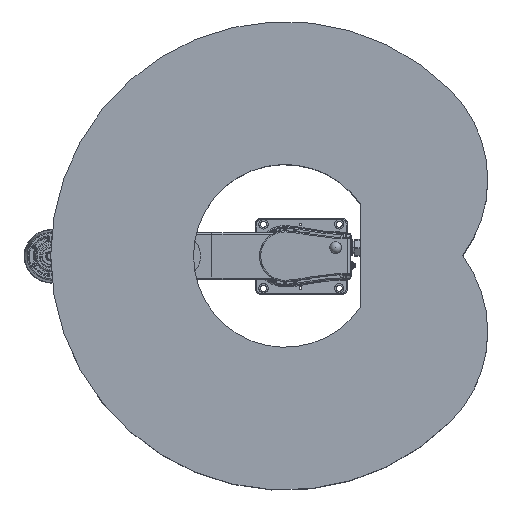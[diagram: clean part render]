
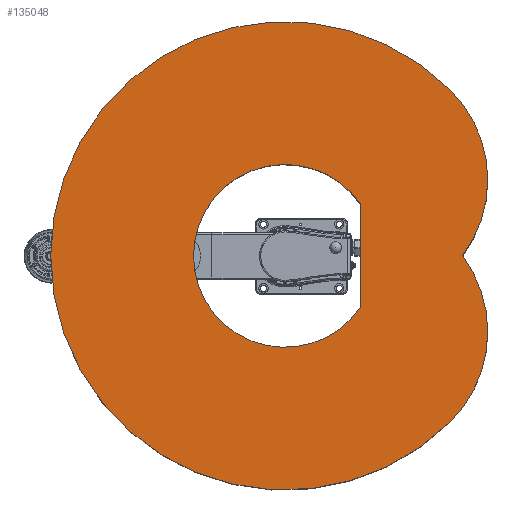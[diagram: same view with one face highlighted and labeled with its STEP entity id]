
A CAD part, top view. The second image highlights one B-rep face of the part: STEP entity #135048.
In plain terms, the highlighted planar face has unit normal (0, 0, 1) as drawn and (0, 1, 0) by its records, which use the part's own axes.
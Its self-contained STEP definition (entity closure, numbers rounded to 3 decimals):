
#40114 = EDGE_CURVE ( 'NONE', #174554, #174601, #62815, .T. ) ;
#40116 = EDGE_CURVE ( 'NONE', #174601, #174580, #80013, .T. ) ;
#40118 = EDGE_CURVE ( 'NONE', #174591, #174593, #62768, .T. ) ;
#40121 = EDGE_CURVE ( 'NONE', #174595, #174578, #62765, .T. ) ;
#40122 = EDGE_CURVE ( 'NONE', #174593, #174595, #63133, .T. ) ;
#40129 = EDGE_CURVE ( 'NONE', #174578, #174591, #62856, .T. ) ;
#40135 = EDGE_CURVE ( 'NONE', #174580, #174554, #62862, .T. ) ;
#43157 = CARTESIAN_POINT ( 'NONE',  ( 97.227, 400., 97.227 ) ) ;
#43165 = DIRECTION ( 'NONE',  ( 0., 1., 0. ) ) ;
#43213 = FACE_OUTER_BOUND ( 'NONE', #97165, .T. ) ;
#43219 = FACE_BOUND ( 'NONE', #97171, .T. ) ;
#43223 = PLANE ( 'NONE',  #162489 ) ;
#43227 = DIRECTION ( 'NONE',  ( 0., 0., 1. ) ) ;
#62765 = CIRCLE ( 'NONE', #63090, 600. ) ;
#62768 = CIRCLE ( 'NONE', #62873, 325. ) ;
#62815 = CIRCLE ( 'NONE', #62925, 234.211 ) ;
#62821 = AXIS2_PLACEMENT_3D ( 'NONE', #80161, #80163, #80167 ) ;
#62856 = CIRCLE ( 'NONE', #62895, 600. ) ;
#62862 = CIRCLE ( 'NONE', #62821, 234.211 ) ;
#62873 = AXIS2_PLACEMENT_3D ( 'NONE', #80037, #80038, #80039 ) ;
#62895 = AXIS2_PLACEMENT_3D ( 'NONE', #80121, #80124, #80127 ) ;
#62925 = AXIS2_PLACEMENT_3D ( 'NONE', #80017, #80019, #80022 ) ;
#63090 = AXIS2_PLACEMENT_3D ( 'NONE', #80049, #80050, #80053 ) ;
#63133 = CIRCLE ( 'NONE', #63169, 325. ) ;
#63169 = AXIS2_PLACEMENT_3D ( 'NONE', #80062, #80064, #80066 ) ;
#63183 = VECTOR ( 'NONE', #80027, 1000. ) ;
#79961 = CARTESIAN_POINT ( 'NONE',  ( 130.546, 400., 194.454 ) ) ;
#80013 = LINE ( 'NONE', #79961, #63183 ) ;
#80017 = CARTESIAN_POINT ( 'NONE',  ( 0., 400., 0. ) ) ;
#80019 = DIRECTION ( 'NONE',  ( 0., 1., 0. ) ) ;
#80022 = DIRECTION ( 'NONE',  ( 0., 0., 1. ) ) ;
#80027 = DIRECTION ( 'NONE',  ( 1., 0., 0. ) ) ;
#80037 = CARTESIAN_POINT ( 'NONE',  ( -194.454, 400., 194.454 ) ) ;
#80038 = DIRECTION ( 'NONE',  ( 0., 1., 0. ) ) ;
#80039 = DIRECTION ( 'NONE',  ( 0., 0., 1. ) ) ;
#80049 = CARTESIAN_POINT ( 'NONE',  ( 0., 400., 0. ) ) ;
#80050 = DIRECTION ( 'NONE',  ( 0., 1., 0. ) ) ;
#80053 = DIRECTION ( 'NONE',  ( 0., 0., 1. ) ) ;
#80062 = CARTESIAN_POINT ( 'NONE',  ( 194.454, 400., 194.454 ) ) ;
#80064 = DIRECTION ( 'NONE',  ( 0., 1., 0. ) ) ;
#80066 = DIRECTION ( 'NONE',  ( 0., 0., 1. ) ) ;
#80121 = CARTESIAN_POINT ( 'NONE',  ( 0., 400., 0. ) ) ;
#80124 = DIRECTION ( 'NONE',  ( 0., 1., 0. ) ) ;
#80127 = DIRECTION ( 'NONE',  ( 0., 0., 1. ) ) ;
#80161 = CARTESIAN_POINT ( 'NONE',  ( 0., 400., 0. ) ) ;
#80163 = DIRECTION ( 'NONE',  ( 0., 1., 0. ) ) ;
#80167 = DIRECTION ( 'NONE',  ( 0., 0., 1. ) ) ;
#97165 = EDGE_LOOP ( 'NONE', ( #137618, #137620, #137621, #137623 ) ) ;
#97171 = EDGE_LOOP ( 'NONE', ( #137626, #137627, #137629 ) ) ;
#135048 = ADVANCED_FACE ( 'NONE', ( #43213, #43219 ), #43223, .T. ) ;
#137618 = ORIENTED_EDGE ( 'NONE', *, *, #40122, .T. ) ;
#137620 = ORIENTED_EDGE ( 'NONE', *, *, #40121, .T. ) ;
#137621 = ORIENTED_EDGE ( 'NONE', *, *, #40129, .T. ) ;
#137623 = ORIENTED_EDGE ( 'NONE', *, *, #40118, .T. ) ;
#137626 = ORIENTED_EDGE ( 'NONE', *, *, #40116, .F. ) ;
#137627 = ORIENTED_EDGE ( 'NONE', *, *, #40114, .F. ) ;
#137629 = ORIENTED_EDGE ( 'NONE', *, *, #40135, .F. ) ;
#140508 = CARTESIAN_POINT ( 'NONE',  ( 0., 400., -234.211 ) ) ;
#140555 = CARTESIAN_POINT ( 'NONE',  ( 0., 400., -600. ) ) ;
#140558 = CARTESIAN_POINT ( 'NONE',  ( 130.546, 400., 194.454 ) ) ;
#140580 = CARTESIAN_POINT ( 'NONE',  ( -424.264, 400., 424.264 ) ) ;
#140584 = CARTESIAN_POINT ( 'NONE',  ( 0., 400., 454.863 ) ) ;
#140586 = CARTESIAN_POINT ( 'NONE',  ( 424.264, 400., 424.264 ) ) ;
#140598 = CARTESIAN_POINT ( 'NONE',  ( -130.546, 400., 194.454 ) ) ;
#162489 = AXIS2_PLACEMENT_3D ( 'NONE', #43157, #43165, #43227 ) ;
#174554 = VERTEX_POINT ( 'NONE', #140508 ) ;
#174578 = VERTEX_POINT ( 'NONE', #140555 ) ;
#174580 = VERTEX_POINT ( 'NONE', #140558 ) ;
#174591 = VERTEX_POINT ( 'NONE', #140580 ) ;
#174593 = VERTEX_POINT ( 'NONE', #140584 ) ;
#174595 = VERTEX_POINT ( 'NONE', #140586 ) ;
#174601 = VERTEX_POINT ( 'NONE', #140598 ) ;
